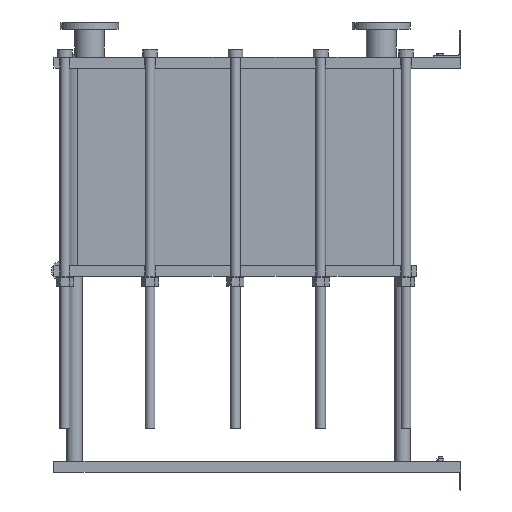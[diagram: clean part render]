
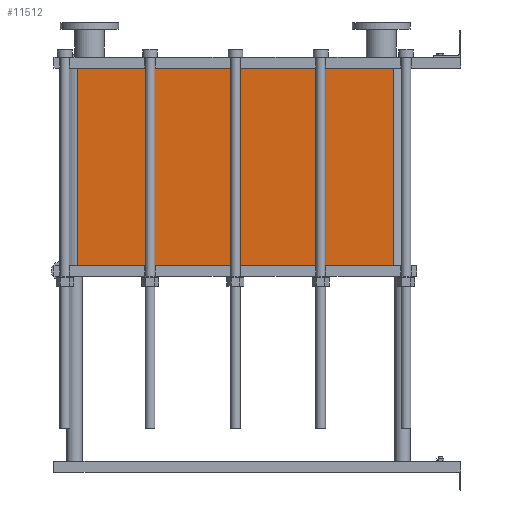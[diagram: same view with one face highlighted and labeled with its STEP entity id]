
A CAD part, left-side view. The second image highlights one B-rep face of the part: STEP entity #11512.
In plain terms, the highlighted planar face has unit normal (-1, 0, 0).
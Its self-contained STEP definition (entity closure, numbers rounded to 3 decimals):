
#1129=LINE('',#23232,#2102);
#1130=LINE('',#23236,#2103);
#1131=LINE('',#23238,#2104);
#1132=LINE('',#23239,#2105);
#2102=VECTOR('',#15887,10.);
#2103=VECTOR('',#15892,10.);
#2104=VECTOR('',#15893,10.);
#2105=VECTOR('',#15894,10.);
#3267=FACE_OUTER_BOUND('',#4093,.T.);
#4093=EDGE_LOOP('',(#10103,#10104,#10105,#10106));
#5642=VERTEX_POINT('',#23229);
#5643=VERTEX_POINT('',#23231);
#5644=VERTEX_POINT('',#23235);
#5645=VERTEX_POINT('',#23237);
#7159=EDGE_CURVE('',#5643,#5642,#1129,.T.);
#7161=EDGE_CURVE('',#5642,#5644,#1130,.T.);
#7162=EDGE_CURVE('',#5645,#5644,#1131,.T.);
#7163=EDGE_CURVE('',#5645,#5643,#1132,.T.);
#10103=ORIENTED_EDGE('',*,*,#7161,.T.);
#10104=ORIENTED_EDGE('',*,*,#7162,.F.);
#10105=ORIENTED_EDGE('',*,*,#7163,.T.);
#10106=ORIENTED_EDGE('',*,*,#7159,.T.);
#10857=PLANE('',#12751);
#11512=ADVANCED_FACE('',(#3267),#10857,.T.);
#12751=AXIS2_PLACEMENT_3D('',#23234,#15890,#15891);
#15887=DIRECTION('',(0.,0.,-1.));
#15890=DIRECTION('center_axis',(-1.,0.,0.));
#15891=DIRECTION('ref_axis',(0.,1.,0.));
#15892=DIRECTION('',(0.,-1.,0.));
#15893=DIRECTION('',(0.,0.,-1.));
#15894=DIRECTION('',(0.,1.,0.));
#23229=CARTESIAN_POINT('',(-200.,1414.,-727.95));
#23231=CARTESIAN_POINT('',(-200.,1414.,0.));
#23232=CARTESIAN_POINT('',(-200.,1414.,0.));
#23234=CARTESIAN_POINT('Origin',(-200.,248.,0.));
#23235=CARTESIAN_POINT('',(-200.,248.,-727.95));
#23236=CARTESIAN_POINT('',(-200.,539.5,-727.95));
#23237=CARTESIAN_POINT('',(-200.,248.,0.));
#23238=CARTESIAN_POINT('',(-200.,248.,0.));
#23239=CARTESIAN_POINT('',(-200.,248.,0.));
